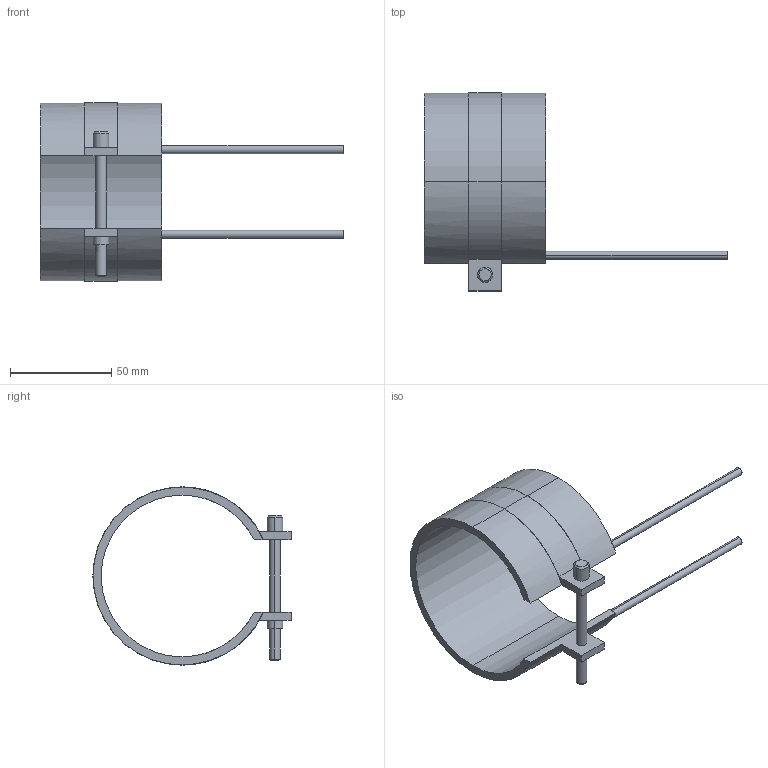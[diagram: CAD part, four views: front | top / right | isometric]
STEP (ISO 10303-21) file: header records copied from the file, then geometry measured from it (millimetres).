
FILE_DESCRIPTION(('CATIA V5 STEP Exchange'),'2;1');
FILE_NAME('C:\Users\Utente\Desktop\IO LAVORO\3D X SITO CF\X SITO\PLASTICA\RF2\14080060.stp','2021-04-03T08:48:42+00:00',('none'),('none'),'CATIA Version 5 Release 20 GA (IN-10)','CATIA V5 STEP AP203','none');
FILE_SCHEMA(('CONFIG_CONTROL_DESIGN'));
Length unit declared in the file: millimetre
Products named in the file (1): 14080060
Bounding box: 150 x 98.1 x 88.2 mm (x, y, z)
Volume: 60630.7 mm3; surface area: 34127.4 mm2
Topology: 1 solids, 1 shells, 45 faces, 116 edges, 76 vertices
Faces by surface type: cylinder 24, plane 17, cone 4
Entity records: 1418 total; most frequent: CARTESIAN_POINT 296, ORIENTED_EDGE 232, DIRECTION 194, EDGE_CURVE 116, AXIS2_PLACEMENT_3D 102, VERTEX_POINT 76, CIRCLE 60, VECTOR 52
